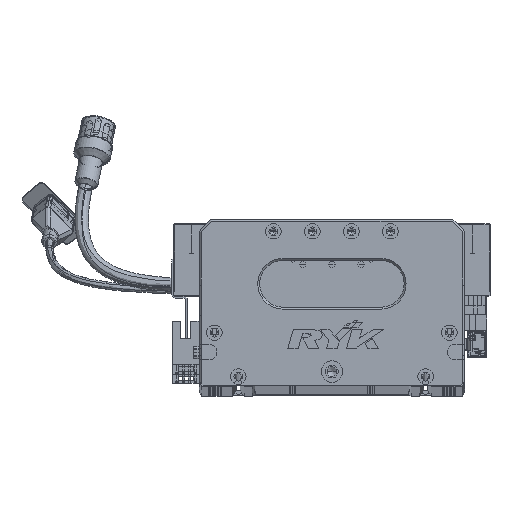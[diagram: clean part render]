
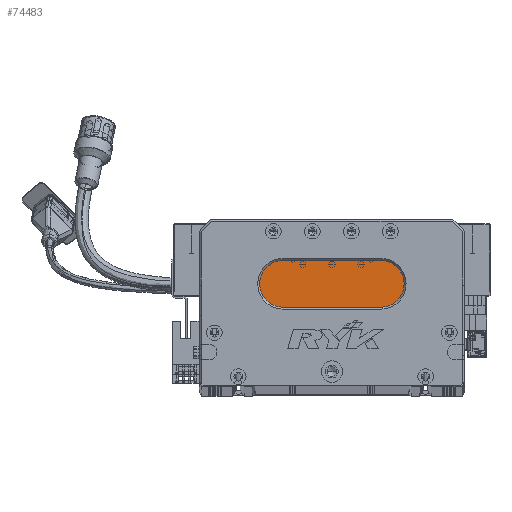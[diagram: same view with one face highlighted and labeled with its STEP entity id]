
A CAD part, top view. The second image highlights one B-rep face of the part: STEP entity #74483.
In plain terms, the highlighted planar face has unit normal (0, 0, 1) as drawn and (0, 0, -1) by its records, which use the part's own axes.
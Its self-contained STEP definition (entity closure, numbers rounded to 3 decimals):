
#1037 = AXIS2_PLACEMENT_3D ( 'NONE', #121240, #25066, #15258 ) ;
#1472 = EDGE_CURVE ( 'NONE', #84112, #111041, #93595, .T. ) ;
#5566 = LINE ( 'NONE', #111749, #25673 ) ;
#12116 = AXIS2_PLACEMENT_3D ( 'NONE', #50381, #51298, #82798 ) ;
#13764 = DIRECTION ( 'NONE',  ( -1., 0., 0. ) ) ;
#15258 = DIRECTION ( 'NONE',  ( -1., 0., 0. ) ) ;
#18350 = DIRECTION ( 'NONE',  ( -1., 0., 0. ) ) ;
#25066 = DIRECTION ( 'NONE',  ( 0., 0., -1. ) ) ;
#25673 = VECTOR ( 'NONE', #122524, 1000. ) ;
#28647 = EDGE_LOOP ( 'NONE', ( #123550, #68013, #71533, #76426, #67942 ) ) ;
#29558 = CIRCLE ( 'NONE', #12116, 12. ) ;
#39177 = AXIS2_PLACEMENT_3D ( 'NONE', #131885, #68130, #13764 ) ;
#39201 = CARTESIAN_POINT ( 'NONE',  ( 93., 64., 13. ) ) ;
#43125 = CARTESIAN_POINT ( 'NONE',  ( 93., 64., 13. ) ) ;
#48686 = CARTESIAN_POINT ( 'NONE',  ( 43., 64., 13. ) ) ;
#50381 = CARTESIAN_POINT ( 'NONE',  ( 43., 52., 13. ) ) ;
#51298 = DIRECTION ( 'NONE',  ( 0., 0., -1. ) ) ;
#55241 = VERTEX_POINT ( 'NONE', #39201 ) ;
#59635 = EDGE_CURVE ( 'NONE', #111041, #100745, #29558, .T. ) ;
#67463 = VERTEX_POINT ( 'NONE', #105010 ) ;
#67942 = ORIENTED_EDGE ( 'NONE', *, *, #71100, .T. ) ;
#68013 = ORIENTED_EDGE ( 'NONE', *, *, #101653, .T. ) ;
#68130 = DIRECTION ( 'NONE',  ( 0., 0., -1. ) ) ;
#69008 = CARTESIAN_POINT ( 'NONE',  ( 43., 52., 13. ) ) ;
#69176 = CARTESIAN_POINT ( 'NONE',  ( 43., 40., 13. ) ) ;
#69221 = EDGE_CURVE ( 'NONE', #55241, #67463, #135544, .T. ) ;
#69651 = VECTOR ( 'NONE', #97544, 1000. ) ;
#71100 = EDGE_CURVE ( 'NONE', #100745, #55241, #98136, .T. ) ;
#71533 = ORIENTED_EDGE ( 'NONE', *, *, #1472, .T. ) ;
#73206 = DIRECTION ( 'NONE',  ( 0., 0., -1. ) ) ;
#74483 = ADVANCED_FACE ( 'NONE', ( #136137 ), #79478, .T. ) ;
#76426 = ORIENTED_EDGE ( 'NONE', *, *, #59635, .T. ) ;
#78596 = AXIS2_PLACEMENT_3D ( 'NONE', #69008, #73206, #18350 ) ;
#79478 = PLANE ( 'NONE',  #1037 ) ;
#82798 = DIRECTION ( 'NONE',  ( -1., 0., 0. ) ) ;
#84112 = VERTEX_POINT ( 'NONE', #69176 ) ;
#93595 = CIRCLE ( 'NONE', #78596, 12. ) ;
#95461 = CARTESIAN_POINT ( 'NONE',  ( 31., 52., 13. ) ) ;
#97544 = DIRECTION ( 'NONE',  ( 1., 0., 0. ) ) ;
#98136 = LINE ( 'NONE', #43125, #69651 ) ;
#100745 = VERTEX_POINT ( 'NONE', #48686 ) ;
#101653 = EDGE_CURVE ( 'NONE', #67463, #84112, #5566, .T. ) ;
#105010 = CARTESIAN_POINT ( 'NONE',  ( 93., 40., 13. ) ) ;
#111041 = VERTEX_POINT ( 'NONE', #95461 ) ;
#111749 = CARTESIAN_POINT ( 'NONE',  ( 93., 40., 13. ) ) ;
#121240 = CARTESIAN_POINT ( 'NONE',  ( 93., 52., 13. ) ) ;
#122524 = DIRECTION ( 'NONE',  ( -1., 0., 0. ) ) ;
#123550 = ORIENTED_EDGE ( 'NONE', *, *, #69221, .T. ) ;
#131885 = CARTESIAN_POINT ( 'NONE',  ( 93., 52., 13. ) ) ;
#135544 = CIRCLE ( 'NONE', #39177, 12. ) ;
#136137 = FACE_OUTER_BOUND ( 'NONE', #28647, .T. ) ;
